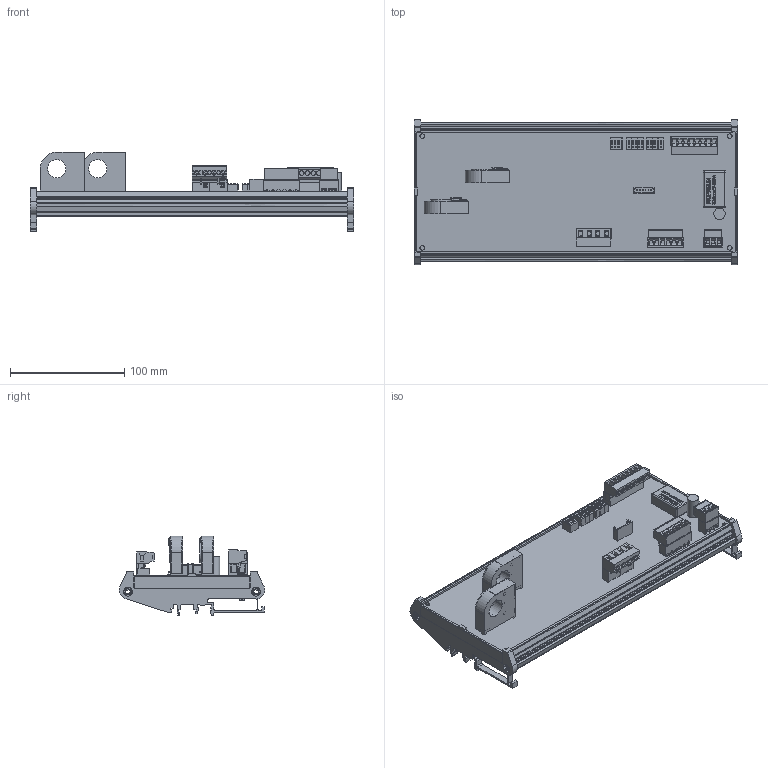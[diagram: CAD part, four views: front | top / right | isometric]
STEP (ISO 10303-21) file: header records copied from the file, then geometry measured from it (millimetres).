
FILE_DESCRIPTION(('FreeCAD Model'),'2;1');
FILE_NAME('C:/3D Files/Stringhe/ST0HS/ST0HS02x00/ST0HS02x00.step', '2022-06-01T16:41:21',('Author'),(''), 'Open CASCADE STEP processor 7.3','FreeCAD','Unknown');
FILE_SCHEMA(('AUTOMOTIVE_DESIGN { 1 0 10303 214 1 1 1 1 }'));
Length unit declared in the file: millimetre
Products named in the file (22): ST0HS02x00; AmpModu_6P_M; DipSwitch4; WRB2403ZP-6WR003; ELNA_470_uF_35_V; Mstb_03P_F; Mstb_03Pc_M; SH04-7,62; PV02-7,62-V-Pa; PV02-7,62-V-Pb; Mstb_8P_F; Mstb_8Pc_M; Hall_Sensor_45_A_CH_1; Hall_Sensor_45_A_CH_2; Stampato_279,7_x_108; Profilo_284x128; DipSwitch005; DipSwitch006; DipSwitch007; DipSwitch008; Mstb_06Pc_M; Mstb_06P_F
Assembly tree (21 placements, depth 2):
  ST0HS02x00
    AmpModu_6P_M
    DipSwitch4
    WRB2403ZP-6WR003
    ELNA_470_uF_35_V
    Mstb_03P_F
    Mstb_03Pc_M
    SH04-7,62
    PV02-7,62-V-Pa
    PV02-7,62-V-Pb
    Mstb_8P_F
    Mstb_8Pc_M
    Hall_Sensor_45_A_CH_1
    Hall_Sensor_45_A_CH_2
    Stampato_279,7_x_108
    Profilo_284x128
    DipSwitch005
    DipSwitch006
    DipSwitch007
    DipSwitch008
    Mstb_06Pc_M
    Mstb_06P_F
Bounding box: 284 x 127.59 x 69.79 mm (x, y, z)
Volume: 202780.2 mm3; surface area: 255078.5 mm2
Topology: 29 solids, 50 shells, 3505 faces, 10065 edges, 8492 vertices
Faces by surface type: plane 2682, cylinder 492, bspline 185, cone 59, torus 56, sphere 28, extrusion 3
Full cylindrical faces by diameter (mm): 0.75 x52, 1 x10, 1.5 x8, 1.6 x13, 3.8 x4, 4 x25, 4.3 x2, 7.9 x4, 9.202 x2, 10 x1
Entity records: 268206 total; most frequent: CARTESIAN_POINT 57410, DIRECTION 32942, VECTOR 22717, LINE 22714, ORIENTED_EDGE 18534, PCURVE 18534, DEFINITIONAL_REPRESENTATION 18534, EDGE_CURVE 9473
